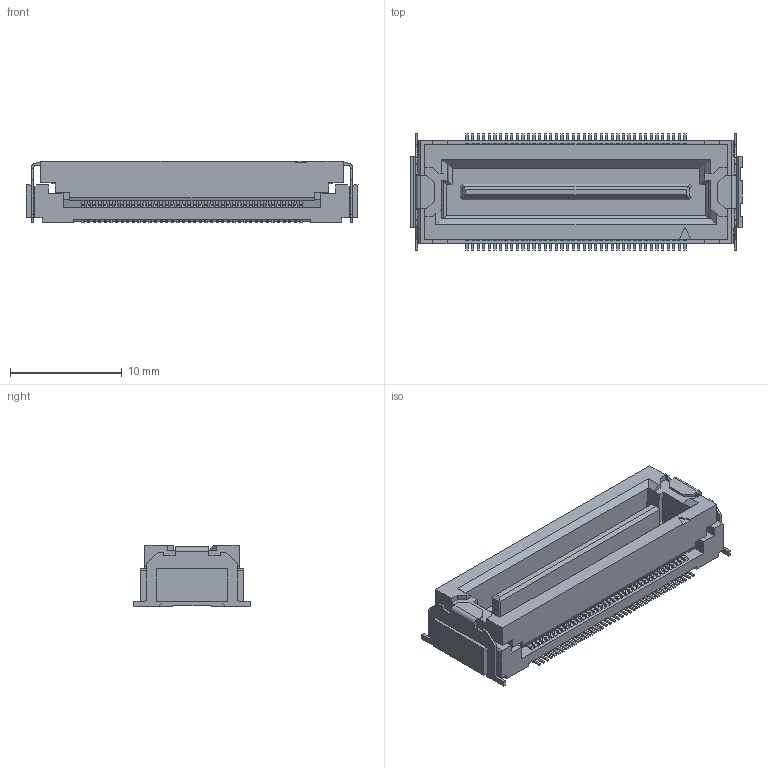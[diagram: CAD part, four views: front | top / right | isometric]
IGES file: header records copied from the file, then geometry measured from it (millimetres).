
Start section: Elysium IGES Interface
Global section: file name: 54HG:\柴崎\DT_webリニューアル\レセ\ボス無\DT00-080S-T.igs; native system: Creo Elements/Direct Modeling 19.0F  14-Feb-2017; preprocessor: Creo Element/Direct IGES_3D V2.2; author: Unknown; organization: Unknown; date: 20170808.194414; units: millimetre
Bounding box: 29.7 x 10.38 x 5.5 mm (x, y, z)
Volume: 871.9 mm3; surface area: 1850 mm2
Topology: 1 solids, 1 shells, 2412 faces, 6643 edges, 4314 vertices
Faces by surface type: bspline 2412
